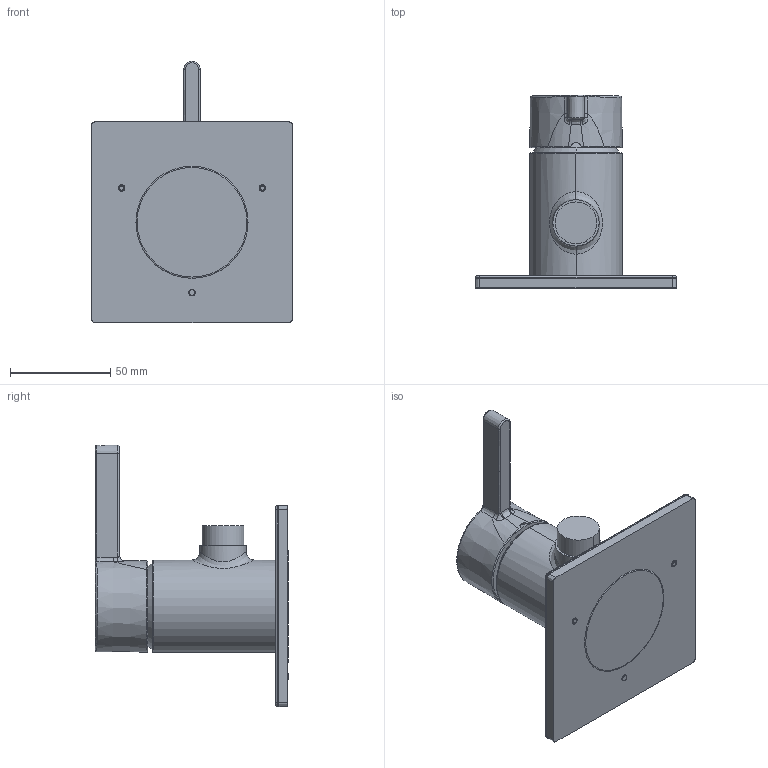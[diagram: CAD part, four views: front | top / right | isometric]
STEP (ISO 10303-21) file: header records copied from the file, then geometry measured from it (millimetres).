
FILE_DESCRIPTION((''),'2;1');
FILE_NAME('FIT_12_SW0001','2021-06-08T10:01:27',('KS894'),(''),'CREO PARAMETRIC BY PTC INC, 2018500','CREO PARAMETRIC BY PTC INC, 2018500','');
FILE_SCHEMA(('CONFIG_CONTROL_DESIGN'));
Length unit declared in the file: millimetre
Products named in the file (1): FIT_12_SW0001
Bounding box: 100 x 96.2 x 130.1 mm (x, y, z)
Volume: 220456.9 mm3; surface area: 39153.4 mm2
Topology: 1 solids, 3 shells, 109 faces, 240 edges, 146 vertices
Faces by surface type: plane 26, cylinder 24, bspline 23, torus 17, cone 13, extrusion 4, sphere 2
Entity records: 5187 total; most frequent: CARTESIAN_POINT 2905, ORIENTED_EDGE 480, DIRECTION 437, EDGE_CURVE 240, AXIS2_PLACEMENT_3D 184, VERTEX_POINT 146, EDGE_LOOP 118, FACE_OUTER_BOUND 109
